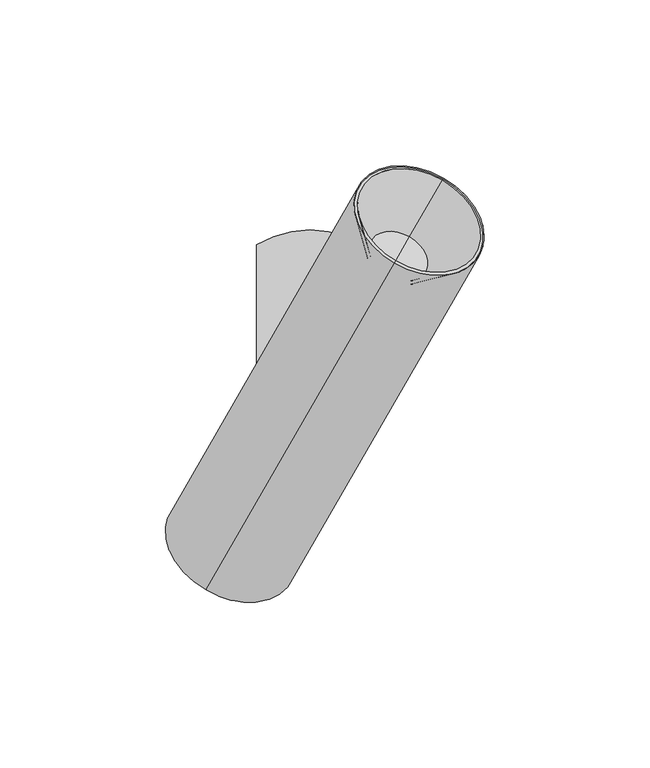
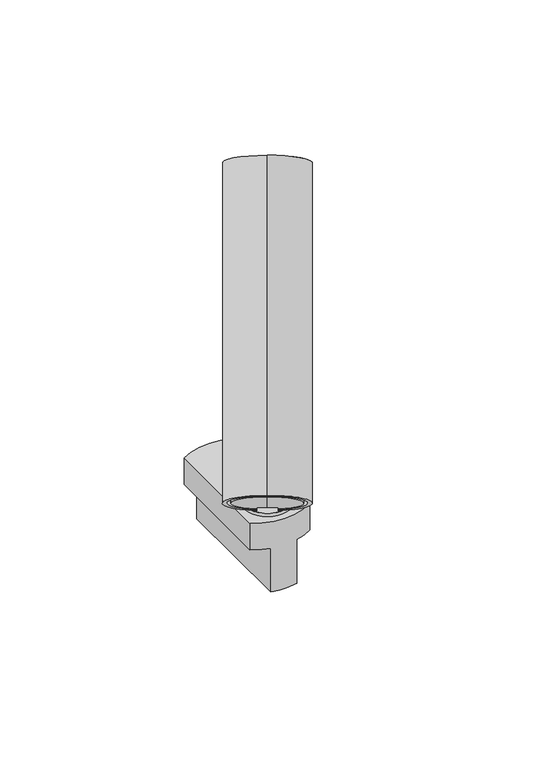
"""IFC4 building model written with IfcOpenShell, lengths in millimetres: light fixture geometry, PIPES T XS : 490lm 7,8W 930 38°."""

import ifcopenshell
import ifcopenshell.guid

model = None  # the IFC model being written
_history = None  # IfcOwnerHistory: only IFC2X3 demands one
_inside = {}  # id of a spatial element -> (the spatial element, [elements in it])
_under = {}  # id of a project, library or spatial element -> (it, [spatial elements below it])
_declared = {}  # id of a project -> (the project, [libraries it declares])
_typed = {}  # id of a type object -> (the type object, [elements of that type])
_made_of = {}  # id of a material, layer set ... -> (it, [elements and type objects made of it])


def new_model(schema):
    """Start an empty IFC model of exactly this schema.

    Asked for "IFC4X3", IfcOpenShell would pick the latest addendum, in which some entities
    have other attributes; the version numbers below select the first issue.
    IFC2X3 requires an IfcOwnerHistory on every rooted entity: one is made here for all.
    """
    global model, _history
    if schema == "IFC4X3":
        model = ifcopenshell.file(schema_version=(4, 3, 0, 0))
    else:
        model = ifcopenshell.file(schema=schema)
    _inside.clear()
    _under.clear()
    _declared.clear()
    _typed.clear()
    _made_of.clear()
    _history = None
    if model.schema == "IFC2X3":
        org = make("IfcOrganization", Name="unknown")
        user = make(
            "IfcPersonAndOrganization",
            ThePerson=make("IfcPerson", FamilyName="unknown"),
            TheOrganization=org,
        )
        app = make(
            "IfcApplication",
            ApplicationDeveloper=org,
            Version="unknown",
            ApplicationFullName="unknown",
            ApplicationIdentifier="unknown",
        )
        _history = make(
            "IfcOwnerHistory",
            OwningUser=user,
            OwningApplication=app,
            ChangeAction="ADDED",
            CreationDate=0,
        )
    return model


def make(cls, **values):
    """One entity of the class cls with the attributes given. An attribute that is None is left unset."""
    return model.create_entity(
        cls, **{name: value for name, value in values.items() if value is not None}
    )


def rooted(cls, **values):
    """An entity with a GlobalId (a new one), such as an element, a storey or a relation."""
    return make(cls, GlobalId=ifcopenshell.guid.new(), OwnerHistory=_history, **values)


def si_unit(unit_type, name, prefix=None):
    """IfcSIUnit, for example si_unit("LENGTHUNIT", "METRE", prefix="MILLI")."""
    return make("IfcSIUnit", UnitType=unit_type, Prefix=prefix, Name=name)


def assignment(units):
    """IfcUnitAssignment: the units of a project."""
    return None if units is None else make("IfcUnitAssignment", Units=units)


def point(xyz):
    """IfcCartesianPoint."""
    return None if xyz is None else make("IfcCartesianPoint", Coordinates=xyz)


def direction(xyz):
    """IfcDirection."""
    return None if xyz is None else make("IfcDirection", DirectionRatios=xyz)


def frame(location, z_axis=None, x_axis=None):
    """IfcAxis2Placement3D, a coordinate frame: its origin and axes. An axis left out is left unset."""
    return make(
        "IfcAxis2Placement3D",
        Location=point(location),
        Axis=direction(z_axis),
        RefDirection=direction(x_axis),
    )


def frame_2d(location, x_axis=None):
    """IfcAxis2Placement2D, a coordinate frame in the plane: its origin and x axis."""
    return make(
        "IfcAxis2Placement2D", Location=point(location), RefDirection=direction(x_axis)
    )


def origin():
    """The frame at (0, 0, 0) with its axes left unset."""
    return frame((0.0, 0.0, 0.0))


def origin_2d():
    """The frame at (0, 0) in the plane with its x axis left unset."""
    return frame_2d((0.0, 0.0))


def place(relative_to, where):
    """IfcLocalPlacement: puts the frame where relative to a parent placement (None: the world)."""
    return make(
        "IfcLocalPlacement", PlacementRelTo=relative_to, RelativePlacement=where
    )


def context(
    kind, dimensions, precision=None, world=None, true_north=None, identifier=None
):
    """IfcGeometricRepresentationContext, for example the 3D "Model" context."""
    return make(
        "IfcGeometricRepresentationContext",
        ContextIdentifier=identifier,
        ContextType=kind,
        CoordinateSpaceDimension=dimensions,
        Precision=precision,
        WorldCoordinateSystem=world,
        TrueNorth=true_north,
    )


def project(units=None, contexts=None):
    """IfcProject with its units and contexts."""
    return rooted(
        "IfcProject",
        Name="project",
        RepresentationContexts=contexts,
        UnitsInContext=assignment(units),
    )


def spatial(cls, under=None, at=None, **own):
    """A site, building, storey or space (cls), placed at a placement, below another one or the project."""
    s = rooted(cls, ObjectPlacement=at, **own)
    if under is not None:
        _under.setdefault(under.id(), (under, []))[1].append(s)
    return s


def polyline(points):
    """IfcPolyline through the points."""
    return make("IfcPolyline", Points=[point(p) for p in points])


def circle_curve(where, radius):
    """IfcCircle in the frame where."""
    return make("IfcCircle", Position=where, Radius=radius)


def trimmed(basis, trim1, trim2, sense, master):
    """IfcTrimmedCurve: the piece of a basis curve between two trims."""
    return make(
        "IfcTrimmedCurve",
        BasisCurve=basis,
        Trim1=trim1,
        Trim2=trim2,
        SenseAgreement=sense,
        MasterRepresentation=master,
    )


def segment(curve, same_sense, transition):
    """IfcCompositeCurveSegment."""
    return make(
        "IfcCompositeCurveSegment",
        Transition=transition,
        SameSense=same_sense,
        ParentCurve=curve,
    )


def composite_curve(segments, self_intersect=None):
    """IfcCompositeCurve: segments joined end to end."""
    return make("IfcCompositeCurve", Segments=segments, SelfIntersect=self_intersect)


def outline(outer, holes=None, kind="AREA"):
    """IfcArbitraryClosedProfileDef: a profile drawn as a closed curve; with holes, ...WithVoids."""
    if holes is None:
        return make("IfcArbitraryClosedProfileDef", ProfileType=kind, OuterCurve=outer)
    return make(
        "IfcArbitraryProfileDefWithVoids",
        ProfileType=kind,
        OuterCurve=outer,
        InnerCurves=holes,
    )


def extrude(swept, where, along, depth):
    """IfcExtrudedAreaSolid: the profile swept, set in the frame where, extruded along a direction by depth."""
    return make(
        "IfcExtrudedAreaSolid",
        SweptArea=swept,
        Position=where,
        ExtrudedDirection=direction(along),
        Depth=depth,
    )


def shape(context_of_items, identifier, shape_type, items):
    """IfcShapeRepresentation: the items that make up one representation, for example the "Body"."""
    return make(
        "IfcShapeRepresentation",
        ContextOfItems=context_of_items,
        RepresentationIdentifier=identifier,
        RepresentationType=shape_type,
        Items=items,
    )


def source(mapping_origin, context_of_items, identifier, shape_type, items):
    """IfcRepresentationMap: a shape defined once, which mapped items show again and again."""
    return make(
        "IfcRepresentationMap",
        MappingOrigin=mapping_origin,
        MappedRepresentation=shape(context_of_items, identifier, shape_type, items),
    )


def transform(
    local_origin,
    x_axis=None,
    y_axis=None,
    z_axis=None,
    scale=None,
    scale2=None,
    scale3=None,
    uniform=True,
):
    """IfcCartesianTransformationOperator3D, or its non-uniform kind. x_axis, y_axis, z_axis: its Axis1, 2, 3."""
    if uniform:
        return make(
            "IfcCartesianTransformationOperator3D",
            Axis1=direction(x_axis),
            Axis2=direction(y_axis),
            LocalOrigin=point(local_origin),
            Scale=scale,
            Axis3=direction(z_axis),
        )
    return make(
        "IfcCartesianTransformationOperator3DnonUniform",
        Axis1=direction(x_axis),
        Axis2=direction(y_axis),
        LocalOrigin=point(local_origin),
        Scale=scale,
        Axis3=direction(z_axis),
        Scale2=scale2,
        Scale3=scale3,
    )


def mapped(mapping_source, mapping_target):
    """IfcMappedItem: shows the shape of a source again, moved by a transform."""
    return make(
        "IfcMappedItem", MappingSource=mapping_source, MappingTarget=mapping_target
    )


def made_of(thing, what):
    """Note that an element or type object is made of a material, layer set ...; save() writes the relation."""
    if what is not None:
        _made_of.setdefault(what.id(), (what, []))[1].append(thing)
    return thing


def element(
    cls,
    number,
    at=None,
    inside=None,
    cuts=None,
    type_object=None,
    material=None,
    context=None,
    identifier="Body",
    shape_type=None,
    held_by="IfcProductDefinitionShape",
    body=None,
    shapes=None,
    **own,
):
    """One element of the class cls, such as IfcWall. Its Tag is "e" and its number.

    at: its placement. inside: the storey or other place that contains it. cuts: it is an
    opening in that element (IfcRelVoidsElement). A single representation is given by context,
    identifier, shape_type and body (its items); several are given by shapes. held_by: the class
    of the entity that holds the representations. save() writes the other relations.
    """
    e = rooted(cls, Tag="e%d" % number, ObjectPlacement=at, **own)
    if body is not None:
        shapes = [shape(context, identifier, shape_type, body)]
    if shapes is not None:
        e.Representation = make(held_by, Representations=shapes)
    if inside is not None:
        _inside.setdefault(inside.id(), (inside, []))[1].append(e)
    if cuts is not None:
        rooted(
            "IfcRelVoidsElement", RelatingBuildingElement=cuts, RelatedOpeningElement=e
        )
    if type_object is not None:
        _typed.setdefault(type_object.id(), (type_object, []))[1].append(e)
    return made_of(e, material)


def aggregate(whole, parts):
    """IfcRelAggregates: a whole, such as a stair, and the parts it consists of."""
    return rooted("IfcRelAggregates", RelatingObject=whole, RelatedObjects=parts)


def save(model, path):
    """Write the relations noted so far, then the file.

    IfcRelAggregates (storeys below a building ...), IfcRelContainedInSpatialStructure (elements
    in a storey), IfcRelDefinesByType, IfcRelAssociatesMaterial and IfcRelDeclares: one each for
    every whole, place, type object, material and project.
    """
    for whole, parts in _under.values():
        aggregate(whole, parts)
    for where, things in _inside.values():
        rooted(
            "IfcRelContainedInSpatialStructure",
            RelatedElements=things,
            RelatingStructure=where,
        )
    for kind, things in _typed.values():
        rooted("IfcRelDefinesByType", RelatedObjects=things, RelatingType=kind)
    for what, things in _made_of.values():
        rooted("IfcRelAssociatesMaterial", RelatedObjects=things, RelatingMaterial=what)
    for by, libraries in _declared.values():
        rooted("IfcRelDeclares", RelatingContext=by, RelatedDefinitions=libraries)
    model.write(path)


def plane_surface(at):
    """IfcPlane: the flat surface through the origin of the frame at, square to its z axis."""
    return make("IfcPlane", Position=at)


def cylinder_surface(at, radius):
    """IfcCylindricalSurface: all points at the distance radius from the z axis of the frame at."""
    return make("IfcCylindricalSurface", Position=at, Radius=radius)


def revolved_surface(curve, axis_point, axis_direction):
    """IfcSurfaceOfRevolution: the curve turned about the line through axis_point along axis_direction."""
    return make(
        "IfcSurfaceOfRevolution",
        SweptCurve=make("IfcArbitraryOpenProfileDef", ProfileType="CURVE", Curve=curve),
        AxisPosition=make("IfcAxis1Placement", Location=point(axis_point), Axis=direction(axis_direction)),
    )


def advanced_brep(points, edges, surfaces, faces):
    """IfcAdvancedBrep: a solid bounded by faces that lie on surfaces and meet in shared edges.

    An edge is (start, end): straight between two places in points (the first is 0);
    or (start, end, curve); or (start, end, curve, False) where it runs against its curve.
    A face is (place in surfaces, loops), or (place, loops, False) where it looks against
    its surface's normal. A loop lists edges by number (the first is 1), with a minus sign
    where the edge is run from its end to its start. The first loop is the outer one.
    """
    corners = [point(p) for p in points]
    vertices = [make("IfcVertexPoint", VertexGeometry=c) for c in corners]
    made = []
    for start, end, *more in edges:
        made.append(
            make(
                "IfcEdgeCurve",
                EdgeStart=vertices[start],
                EdgeEnd=vertices[end],
                EdgeGeometry=more[0] if more else make("IfcPolyline", Points=[corners[start], corners[end]]),
                SameSense=more[1] if len(more) > 1 else True,
            )
        )
    hull = []
    for where, loops, *sense in faces:
        bounds = []
        for j, loop in enumerate(loops):
            ring = [make("IfcOrientedEdge", EdgeElement=made[abs(k) - 1], Orientation=k > 0) for k in loop]
            bounds.append(
                make(
                    "IfcFaceOuterBound" if j == 0 else "IfcFaceBound",
                    Bound=make("IfcEdgeLoop", EdgeList=ring),
                    Orientation=True,
                )
            )
        hull.append(make("IfcAdvancedFace", Bounds=bounds, FaceSurface=surfaces[where], SameSense=sense[0] if sense else True))
    return make("IfcAdvancedBrep", Outer=make("IfcClosedShell", CfsFaces=hull))


def light_fixture_952d7ee1(model_context):
    return source(origin(), model_context, "Body", "SolidModel", [
        extrude(outline(composite_curve([segment(polyline([(39.7303383, 0.0), (39.7303383, -8.0), (36.7303383, -8.0), (36.7303383, -10.0), (-21.31827, -10.0), (-21.31827, -2.0)]), True, "CONTINUOUS"), segment(trimmed(circle_curve(frame_2d((-15.691322, -2.0)), 5.626948), [point((-21.31827, -2.0))], [point((-15.691322, 3.626948))], False, "CARTESIAN"), True, "CONTINUOUS"), segment(polyline([(-15.691322, 3.626948), (-9.8735653, 3.626948)]), True, "CONTINUOUS"), segment(trimmed(circle_curve(frame_2d((-17.7182036, -2.2388678)), 9.7952104), [point((-9.8735653, 3.626948))], [point((-8.1822916, 0.0))], False, "CARTESIAN"), True, "CONTINUOUS"), segment(polyline([(-8.1822916, 0.0), (39.7303383, 0.0)]), True, "CONTINUOUS")], self_intersect=False)), frame((1.830127, -6.830127, 56.5303383), z_axis=(-0.8660254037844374, 0.5000000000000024, 0.0), x_axis=(0.0, 0.0, -1.0)), (0.0, 0.0, 1.0), 10.0),
        extrude(outline(composite_curve([segment(trimmed(circle_curve(origin_2d(), 12.5), [point((-10.8253175, 6.25))], [point((10.8253175, -6.25))], False, "CARTESIAN"), True, "CONTINUOUS"), segment(trimmed(circle_curve(origin_2d(), 12.5), [point((10.8253175, -6.25))], [point((-10.8253175, 6.25))], False, "CARTESIAN"), True, "CONTINUOUS")], self_intersect=False)), frame((0.0, 0.0, 15.0), z_axis=(0.0, 0.0, 1.0), x_axis=(1.0, 0.0, 0.0)), (0.0, 0.0, 1.0), 1.8),
        advanced_brep(
        [(-7.1153658, -15.2862846, -25.0), (-7.1153658, 53.3498174, -25.0), (7.1153658, 53.3498174, -25.0), (7.1153658, -15.2862846, -25.0), (-16.1153658, 49.7317664, 15.0), (-16.1153658, -11.6682336, 15.0), (16.1153658, -11.6682336, 15.0), (16.1153658, 49.7317664, 15.0), (-16.1153658, 49.7317664, 0.0), (-16.1153658, -11.6682336, 0.0), (-7.1153658, -15.2862846, 0.0), (7.1153658, -15.2862846, 0.0), (16.1153658, -11.6682336, 0.0), (16.1153658, 49.7317664, 0.0), (7.1153658, 53.3498174, 0.0), (-7.1153658, 53.3498174, 0.0)],
        [
            (0, 1),
            (1, 2, circle_curve(frame((0.0, 22.6472542, -25.0), z_axis=(0.0, 0.0, -1.0), x_axis=(1.0, 0.0, 0.0)), 31.5162786)),
            (2, 3),
            (3, 0, circle_curve(frame((0.0, 15.4162786, -25.0), z_axis=(0.0, 0.0, -1.0), x_axis=(1.0, 0.0, 0.0)), 31.5162786)),
            (4, 5),
            (5, 6, circle_curve(frame((0.0, 15.4162786, 15.0), z_axis=(0.0, 0.0, 1.0), x_axis=(1.0, 0.0, 0.0)), 31.5162786)),
            (6, 7),
            (7, 4, circle_curve(frame((0.0, 22.6472542, 15.0), z_axis=(0.0, 0.0, 1.0), x_axis=(1.0, 0.0, 0.0)), 31.5162786)),
            (4, 8),
            (8, 9),
            (9, 5),
            (9, 10, circle_curve(frame((0.0, 15.4162786, 0.0), z_axis=(0.0, 0.0, 1.0), x_axis=(1.0, 0.0, 0.0)), 31.5162786)),
            (10, 0),
            (3, 11),
            (11, 12, circle_curve(frame((0.0, 15.4162786, 0.0), z_axis=(0.0, 0.0, 1.0), x_axis=(1.0, 0.0, 0.0)), 31.5162786)),
            (12, 6),
            (12, 13),
            (13, 7),
            (13, 14, circle_curve(frame((0.0, 22.6472542, 0.0), z_axis=(0.0, 0.0, 1.0), x_axis=(1.0, 0.0, 0.0)), 31.5162786)),
            (14, 2),
            (1, 15),
            (15, 8, circle_curve(frame((0.0, 22.6472542, 0.0), z_axis=(0.0, 0.0, 1.0), x_axis=(1.0, 0.0, 0.0)), 31.5162786)),
            (15, 10),
            (11, 14),
        ],
        [
            plane_surface(frame((-16.1153658, -11.6883244, -25.0), z_axis=(0.0, 0.0, -1.0), x_axis=(0.0, 1.0, 0.0))),
            plane_surface(frame((-16.1153658, -11.6883244, 15.0), z_axis=(0.0, 0.0, 1.0), x_axis=(0.0, -1.0, 0.0))),
            plane_surface(frame((-16.1153658, 49.7317664, 15.0), z_axis=(-1.0, 0.0, 0.0), x_axis=(0.0, 0.0, -1.0))),
            cylinder_surface(frame((0.0, 15.4162786, -25.0), z_axis=(0.0, 0.0, 1.0), x_axis=(1.0, 0.0, 0.0)), 31.5162786),
            plane_surface(frame((16.1153658, -11.6682336, 15.0), z_axis=(1.0, 0.0, 0.0), x_axis=(0.0, 0.0, -1.0))),
            cylinder_surface(frame((0.0, 22.6472542, -25.0), z_axis=(0.0, 0.0, 1.0), x_axis=(1.0, 0.0, 0.0)), 31.5162786),
            plane_surface(frame((-7.1153658, 58.6979838, 0.0), z_axis=(0.0, 0.0, -1.0), x_axis=(-1.0, 0.0, 0.0))),
            plane_surface(frame((-7.1153658, -21.3020162, 0.0), z_axis=(-1.0, 0.0, 0.0), x_axis=(0.0, 0.0, -1.0))),
            plane_surface(frame((7.1153658, -11.6883244, 0.0), z_axis=(0.0, 0.0, -1.0), x_axis=(0.0, -1.0, 0.0))),
            plane_surface(frame((7.1153658, 58.6979838, 0.0), z_axis=(1.0, 0.0, 0.0), x_axis=(0.0, 0.0, -1.0))),
        ],
        [
            (0, [[1, 2, 3, 4]]),
            (1, [[5, 6, 7, 8]]),
            (2, [[-5, 9, 10, 11]]),
            (3, [[-6, -11, 12, 13, -4, 14, 15, 16]]),
            (4, [[-7, -16, 17, 18]]),
            (5, [[-8, -18, 19, 20, -2, 21, 22, -9]]),
            (6, [[23, -12, -10, -22]]),
            (7, [[-23, -21, -1, -13]]),
            (8, [[24, -19, -17, -15]]),
            (9, [[-24, -14, -3, -20]]),
        ],
    ),
        advanced_brep(
        [(-4.330127, 2.5, 80.0710678), (-22.3613499, -28.7309942, 44.008622), (-19.7696965, -24.2421189, 38.8253152), (-21.8910169, -27.9163535, 34.5826745), (-21.160655, -26.6513296, 33.1219508), (-1.0081118, 8.2538992, 73.4270373), (4.330127, -2.5, 80.0710678), (7.6521423, 3.2538992, 73.4270373), (-12.500401, -31.6513296, 33.1219508), (-13.2307628, -32.9163535, 34.5826745), (-11.1094425, -29.2421189, 38.8253152), (-13.7010959, -33.7309942, 44.008622), (-18.0312229, -31.2309942, 44.008622), (3.5355339, 6.1237244, 73.0), (40.3050865, 69.8104577, 146.5391052), (25.4558441, 44.0908154, 176.2375901), (-31.4662518, -54.5011468, 62.3933983), (-30.759145, -53.2764019, 60.9791847), (-28.6378246, -49.6021673, 65.2218254), (-21.9203102, -37.967091, 51.7867966), (22.8041937, 39.4980221, 155.37794), (29.8752615, 51.7454708, 141.2358044), (26.3397276, 45.6217465, 148.3068722)],
        [
            (0, 1),
            (1, 2),
            (2, 3),
            (3, 4),
            (4, 5),
            (5, 0),
            (6, 7),
            (7, 8),
            (8, 9),
            (9, 10),
            (10, 11),
            (11, 6),
            (0, 6),
            (11, 12),
            (12, 1),
            (5, 13, circle_curve(frame((-3.8890873, -6.7360968, 87.8492424), z_axis=(-0.3535533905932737, -0.6123724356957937, -0.7071067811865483), x_axis=(0.35355339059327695, 0.6123724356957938, -0.7071067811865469)), 21.0)),
            (13, 7, circle_curve(frame((-3.8890873, -6.7360968, 87.8492424), z_axis=(-0.3535533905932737, -0.6123724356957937, -0.7071067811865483), x_axis=(0.35355339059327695, 0.6123724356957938, -0.7071067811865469)), 21.0)),
            (14, 15, circle_curve(frame((32.8804653, 56.9506365, 161.3883476), z_axis=(-0.3535533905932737, -0.6123724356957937, -0.7071067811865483), x_axis=(0.35355339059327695, 0.6123724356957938, -0.7071067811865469)), 21.0)),
            (15, 16),
            (16, 8, circle_curve(frame((-24.0416306, -41.6413256, 47.5441559), z_axis=(0.3535533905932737, 0.6123724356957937, 0.7071067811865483), x_axis=(0.35355339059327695, 0.6123724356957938, -0.7071067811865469)), 21.0)),
            (13, 14),
            (15, 14, circle_curve(frame((32.8804653, 56.9506365, 161.3883476), z_axis=(-0.3535533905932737, -0.6123724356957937, -0.7071067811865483), x_axis=(0.35355339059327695, 0.6123724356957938, -0.7071067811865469)), 21.0)),
            (4, 16, circle_curve(frame((-24.0416306, -41.6413256, 47.5441559), z_axis=(0.3535533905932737, 0.6123724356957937, 0.7071067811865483), x_axis=(0.35355339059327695, 0.6123724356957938, -0.7071067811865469)), 21.0)),
            (16, 17),
            (17, 9, circle_curve(frame((-24.0416306, -41.6413256, 47.5441559), z_axis=(0.3535533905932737, 0.6123724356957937, 0.7071067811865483), x_axis=(0.35355339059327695, 0.6123724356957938, -0.7071067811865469)), 19.0)),
            (3, 17, circle_curve(frame((-24.0416306, -41.6413256, 47.5441559), z_axis=(0.3535533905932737, 0.6123724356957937, 0.7071067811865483), x_axis=(0.35355339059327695, 0.6123724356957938, -0.7071067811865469)), 19.0)),
            (17, 18),
            (18, 10, circle_curve(frame((-21.9203102, -37.967091, 51.7867966), z_axis=(0.3535533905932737, 0.6123724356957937, 0.7071067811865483), x_axis=(0.35355339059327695, 0.6123724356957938, -0.7071067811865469)), 19.0)),
            (2, 18, circle_curve(frame((-21.9203102, -37.967091, 51.7867966), z_axis=(0.3535533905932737, 0.6123724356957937, 0.7071067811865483), x_axis=(0.35355339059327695, 0.6123724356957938, -0.7071067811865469)), 19.0)),
            (18, 19),
            (19, 12),
            (20, 21, circle_curve(frame((26.3397276, 45.6217465, 148.3068722), z_axis=(0.3535533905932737, 0.6123724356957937, 0.7071067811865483), x_axis=(0.35355339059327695, 0.6123724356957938, -0.7071067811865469)), 10.0)),
            (21, 22),
            (22, 20),
            (21, 20, circle_curve(frame((26.3397276, 45.6217465, 148.3068722), z_axis=(0.3535533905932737, 0.6123724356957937, 0.7071067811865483), x_axis=(0.35355339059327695, 0.6123724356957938, -0.7071067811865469)), 10.0)),
            (14, 21),
            (20, 15),
        ],
        [
            plane_surface(frame((-4.330127, 2.5, 80.0710678), z_axis=(0.8660254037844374, -0.5000000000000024, 0.0), x_axis=(0.35355339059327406, 0.6123724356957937, 0.7071067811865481))),
            plane_surface(frame((4.330127, -2.5, 80.0710678), z_axis=(-0.8660254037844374, 0.5000000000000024, 0.0), x_axis=(-0.35355339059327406, -0.6123724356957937, -0.7071067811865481))),
            plane_surface(frame((4.330127, -2.5, 80.0710678), z_axis=(0.3535533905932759, 0.6123724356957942, -0.7071067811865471), x_axis=(-0.8660254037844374, 0.5000000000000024, 0.0))),
            plane_surface(frame((11.4011948, 9.7474487, 65.9289322), z_axis=(-0.3535533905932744, -0.6123724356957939, -0.7071067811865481), x_axis=(-0.8660254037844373, 0.5000000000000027, 0.0))),
            cylinder_surface(frame((-27.0299985, -46.8173307, 41.56742), z_axis=(-0.35355339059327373, -0.6123724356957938, -0.7071067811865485), x_axis=(0.35355339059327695, 0.6123724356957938, -0.7071067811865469)), 21.0),
            plane_surface(frame((-24.0416306, -41.6413256, 47.5441559), z_axis=(-0.35355339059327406, -0.6123724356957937, -0.7071067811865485), x_axis=(0.3535533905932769, 0.6123724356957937, -0.7071067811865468))),
            revolved_surface(polyline([(-17.32411615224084, -30.00624934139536, 34.10912701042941), (-15.202795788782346, -26.332014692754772, 38.35176773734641)]), (-27.0299985, -46.8173307, 41.56742), (-0.35355339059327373, -0.6123724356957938, -0.7071067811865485)),
            plane_surface(frame((-21.9203102, -37.967091, 51.7867966), z_axis=(-0.35355339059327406, -0.6123724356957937, -0.7071067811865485), x_axis=(0.3535533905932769, 0.6123724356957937, -0.7071067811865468))),
            plane_surface(frame((26.3397276, 45.6217465, 148.3068722), z_axis=(0.35355339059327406, 0.6123724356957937, 0.7071067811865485), x_axis=(0.3535533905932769, 0.6123724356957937, -0.7071067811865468))),
            revolved_surface(polyline([(29.8752615, 51.7454708, 141.2358044), (40.3050865, 69.8104577, 146.5391052)]), (-27.0299985, -46.8173307, 41.56742), (-0.35355339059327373, -0.6123724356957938, -0.7071067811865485)),
        ],
        [
            (0, [[1, 2, 3, 4, 5, 6]]),
            (1, [[7, 8, 9, 10, 11, 12]]),
            (2, [[13, -12, 14, 15, -1]]),
            (3, [[-13, -6, 16, 17, -7]]),
            (4, [[18, 19, 20, -8, -17, 21]]),
            (4, [[-19, 22, -21, -16, -5, 23]]),
            (5, [[24, 25, -9, -20]]),
            (5, [[-24, -23, -4, 26]]),
            (6, [[27, 28, -10, -25]]),
            (6, [[-27, -26, -3, 29]]),
            (7, [[30, 31, -14, -11, -28]]),
            (7, [[-30, -29, -2, -15, -31]]),
            (8, [[32, 33, 34]]),
            (8, [[-33, 35, -34]]),
            (9, [[-18, 36, -32, 37]]),
            (9, [[-22, -37, -35, -36]]),
        ],
    ),
        advanced_brep(
        [(-23.7755635, -31.180484, 41.1801948), (-24.4826703, -32.4052288, 39.7659813), (-22.6295464, -29.1955241, 36.0597335), (-21.9224396, -27.9707792, 37.473947), (-15.8224162, -37.4052288, 39.7659813), (-15.1153095, -36.180484, 41.1801948), (-13.2621856, -32.9707792, 37.473947), (-13.9692923, -34.1955241, 36.0597335), (-19.4454365, -33.680484, 41.1801948), (-20.1525433, -34.9052288, 39.7659813), (-23.3345238, -40.4165808, 48.9583694), (-29.342684, -50.8230196, 60.9746899), (-30.0497908, -52.0477644, 59.5604764), (-24.0416306, -41.6413256, 47.5441559)],
        [
            (0, 1),
            (1, 2),
            (2, 3),
            (3, 0),
            (4, 5),
            (5, 6),
            (6, 7),
            (7, 4),
            (0, 8),
            (8, 5),
            (4, 9),
            (9, 1),
            (10, 11),
            (11, 6, circle_curve(frame((-23.3345238, -40.4165808, 48.9583694), z_axis=(0.353553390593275, 0.6123724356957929, 0.7071067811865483), x_axis=(0.3535533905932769, 0.6123724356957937, -0.7071067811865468)), 16.9936434)),
            (8, 10),
            (3, 11, circle_curve(frame((-23.3345238, -40.4165808, 48.9583694), z_axis=(0.353553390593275, 0.6123724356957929, 0.7071067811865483), x_axis=(0.3535533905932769, 0.6123724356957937, -0.7071067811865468)), 16.9936434)),
            (11, 12),
            (12, 7, circle_curve(frame((-24.0416306, -41.6413256, 47.5441559), z_axis=(0.353553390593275, 0.6123724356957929, 0.7071067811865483), x_axis=(0.3535533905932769, 0.6123724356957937, -0.7071067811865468)), 16.9936434)),
            (2, 12, circle_curve(frame((-24.0416306, -41.6413256, 47.5441559), z_axis=(0.353553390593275, 0.6123724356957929, 0.7071067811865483), x_axis=(0.3535533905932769, 0.6123724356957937, -0.7071067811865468)), 16.9936434)),
            (12, 13),
            (13, 9),
        ],
        [
            plane_surface(frame((-4.330127, 2.5, 80.0710678), z_axis=(0.8660254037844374, -0.5000000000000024, 0.0), x_axis=(0.35355339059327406, 0.6123724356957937, 0.7071067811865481))),
            plane_surface(frame((4.330127, -2.5, 80.0710678), z_axis=(-0.8660254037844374, 0.5000000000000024, 0.0), x_axis=(-0.35355339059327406, -0.6123724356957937, -0.7071067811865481))),
            plane_surface(frame((4.330127, -2.5, 80.0710678), z_axis=(0.3535533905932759, 0.6123724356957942, -0.7071067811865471), x_axis=(-0.8660254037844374, 0.5000000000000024, 0.0))),
            plane_surface(frame((-23.3345238, -40.4165808, 48.9583694), z_axis=(0.35355339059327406, 0.6123724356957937, 0.7071067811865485), x_axis=(0.3535533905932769, 0.6123724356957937, -0.7071067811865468))),
            cylinder_surface(frame((22.6442529, 39.2209965, 140.9159227), z_axis=(-0.353553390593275, -0.6123724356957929, -0.7071067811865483), x_axis=(0.3535533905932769, 0.6123724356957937, -0.7071067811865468)), 16.9936434),
            plane_surface(frame((-24.0416306, -41.6413256, 47.5441559), z_axis=(-0.35355339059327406, -0.6123724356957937, -0.7071067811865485), x_axis=(0.3535533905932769, 0.6123724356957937, -0.7071067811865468))),
        ],
        [
            (0, [[1, 2, 3, 4]]),
            (1, [[5, 6, 7, 8]]),
            (2, [[-1, 9, 10, -5, 11, 12]]),
            (3, [[13, 14, -6, -10, 15]]),
            (3, [[-13, -15, -9, -4, 16]]),
            (4, [[17, 18, -7, -14]]),
            (4, [[-17, -16, -3, 19]]),
            (5, [[20, 21, -11, -8, -18]]),
            (5, [[-20, -19, -2, -12, -21]]),
        ],
    ),
        advanced_brep(
        [(23.3588567, 40.4587267, 155.6828275), (30.0277053, 52.0095111, 142.3451304), (26.693281, 46.2341189, 149.013979), (25.8671747, 44.8032608, 175.4149289), (39.893756, 69.0980122, 147.3617664), (25.4558441, 44.0908154, 176.2375901), (40.3050865, 69.8104577, 146.5391052), (22.8041937, 39.4980221, 155.37794), (29.8752615, 51.7454708, 141.2358044), (26.3397276, 45.6217465, 148.3068722)],
        [
            (0, 1, circle_curve(frame((26.693281, 46.2341189, 149.013979), z_axis=(0.3535533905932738, 0.6123724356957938, 0.7071067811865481), x_axis=(0.35355339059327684, 0.6123724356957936, -0.7071067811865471)), 9.431176)),
            (1, 2),
            (2, 0),
            (1, 0, circle_curve(frame((26.693281, 46.2341189, 149.013979), z_axis=(0.3535533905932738, 0.6123724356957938, 0.7071067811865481), x_axis=(0.35355339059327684, 0.6123724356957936, -0.7071067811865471)), 9.431176)),
            (3, 4, circle_curve(frame((32.8804653, 56.9506365, 161.3883476), z_axis=(0.3535533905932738, 0.6123724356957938, 0.7071067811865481), x_axis=(0.35355339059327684, 0.6123724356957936, -0.7071067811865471)), 19.8365814)),
            (4, 1),
            (0, 3),
            (4, 3, circle_curve(frame((32.8804653, 56.9506365, 161.3883476), z_axis=(0.3535533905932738, 0.6123724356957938, 0.7071067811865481), x_axis=(0.35355339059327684, 0.6123724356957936, -0.7071067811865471)), 19.8365814)),
            (5, 6, circle_curve(frame((32.8804653, 56.9506365, 161.3883476), z_axis=(0.3535533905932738, 0.6123724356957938, 0.7071067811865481), x_axis=(0.35355339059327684, 0.6123724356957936, -0.7071067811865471)), 21.0)),
            (6, 4),
            (3, 5),
            (6, 5, circle_curve(frame((32.8804653, 56.9506365, 161.3883476), z_axis=(0.3535533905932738, 0.6123724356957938, 0.7071067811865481), x_axis=(0.35355339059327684, 0.6123724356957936, -0.7071067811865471)), 21.0)),
            (7, 8, circle_curve(frame((26.3397276, 45.6217465, 148.3068722), z_axis=(0.3535533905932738, 0.6123724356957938, 0.7071067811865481), x_axis=(0.35355339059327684, 0.6123724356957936, -0.7071067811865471)), 10.0)),
            (8, 6),
            (5, 7),
            (8, 7, circle_curve(frame((26.3397276, 45.6217465, 148.3068722), z_axis=(0.3535533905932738, 0.6123724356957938, 0.7071067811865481), x_axis=(0.35355339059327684, 0.6123724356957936, -0.7071067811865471)), 10.0)),
            (9, 8),
            (7, 9),
        ],
        [
            plane_surface(frame((26.693281, 46.2341189, 149.013979), z_axis=(0.3535533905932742, 0.6123724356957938, 0.7071067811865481), x_axis=(0.3535533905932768, 0.6123724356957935, -0.707106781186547))),
            revolved_surface(polyline([(30.0277053, 52.0095111, 142.3451304), (39.893756, 69.0980122, 147.3617664)]), (-34.1010663, -59.0647795, 27.4252844), (-0.35355339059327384, -0.6123724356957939, -0.7071067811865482)),
            plane_surface(frame((32.8804653, 56.9506365, 161.3883476), z_axis=(0.3535533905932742, 0.6123724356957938, 0.7071067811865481), x_axis=(0.3535533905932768, 0.6123724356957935, -0.707106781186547))),
            revolved_surface(polyline([(40.3050865, 69.8104577, 146.5391052), (29.8752615, 51.7454708, 141.2358044)]), (-34.1010663, -59.0647795, 27.4252844), (-0.35355339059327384, -0.6123724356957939, -0.7071067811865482)),
            plane_surface(frame((26.3397276, 45.6217465, 148.3068722), z_axis=(-0.3535533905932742, -0.6123724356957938, -0.7071067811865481), x_axis=(0.3535533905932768, 0.6123724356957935, -0.707106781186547))),
        ],
        [
            (0, [[1, 2, 3]]),
            (0, [[4, -3, -2]]),
            (1, [[5, 6, -1, 7]]),
            (1, [[8, -7, -4, -6]]),
            (2, [[9, 10, -5, 11]]),
            (2, [[12, -11, -8, -10]]),
            (3, [[13, 14, -9, 15]]),
            (3, [[16, -15, -12, -14]]),
            (4, [[17, -13, 18]]),
            (4, [[-18, -16, -17]]),
        ],
    ),
    ])


if __name__ == "__main__":
    model = new_model("IFC4")
    model_context = context("Model", 3, world=origin())
    ifc_project = project(units=[si_unit("LENGTHUNIT", "METRE", prefix="MILLI")], contexts=[model_context])
    site = spatial("IfcSite", under=ifc_project)
    building = spatial("IfcBuilding", under=site)
    placement = place(None, origin())
    light_fixture_shape = light_fixture_952d7ee1(model_context)
    element("IfcLightFixture", 1, ObjectType="PIPES T XS : 490lm 7,8W 930 38°", at=placement, inside=building, context=model_context, shape_type="MappedRepresentation", body=[
        mapped(light_fixture_shape, transform((0.0, 0.0, 0.0), x_axis=(1.0, 0.0, 0.0), y_axis=(0.0, 1.0, 0.0), z_axis=(0.0, 0.0, 1.0))),
    ])
    save(model, "model.ifc")
